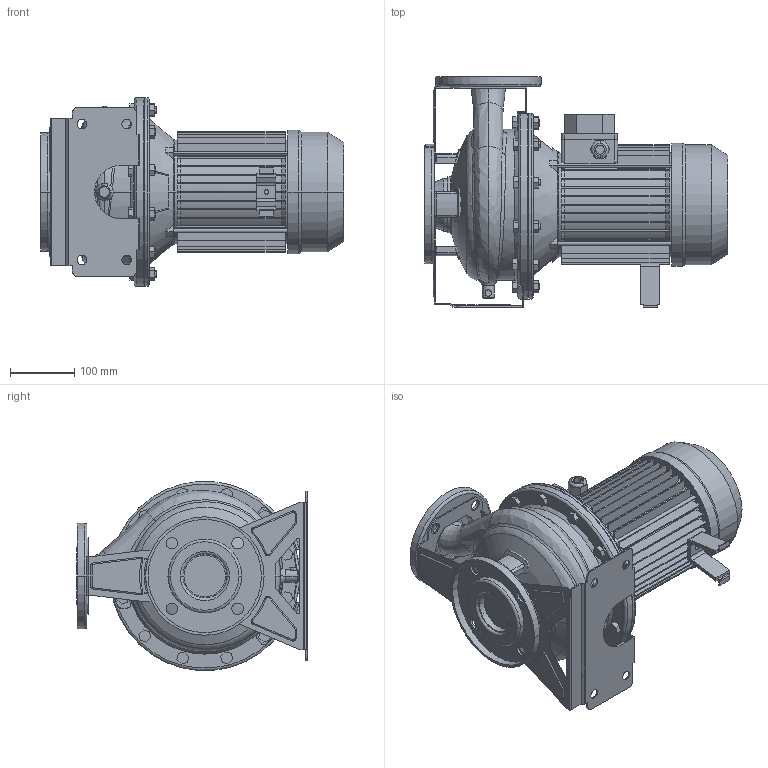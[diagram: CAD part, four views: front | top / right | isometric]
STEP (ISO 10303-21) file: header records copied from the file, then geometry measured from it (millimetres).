
FILE_DESCRIPTION((''),'2;1');
FILE_NAME('3M4_50-200_2_2_IE2_ASM','2012-03-14T',('Rosa'),('"Ebara Pumps Europe +39.444.706811"'),'PRO/ENGINEER BY PARAMETRIC TECHNOLOGY CORPORATION, 2009360','PRO/ENGINEER BY PARAMETRIC TECHNOLOGY CORPORATION, 2009360','');
FILE_SCHEMA(('AUTOMOTIVE_DESIGN { 1 0 10303 214 1 1 1 1 }'));
Length unit declared in the file: millimetre
Products named in the file (11): CORPO_50-200; ASP_50-200; FLANGIA_DIN_65; MAND_50-200; FLANGIA_DIN_50; BASE_3M_50-200; CORPO_SALDATO_50-200_ASM; SUPPORTO_3M_230_100; MEC_100X130_IE2; SOSTEGNO_72007; 3M4_50-200_2_2_IE2_ASM
Assembly tree (10 placements, depth 3):
  3M4_50-200_2_2_IE2_ASM
    CORPO_SALDATO_50-200_ASM
      CORPO_50-200
      ASP_50-200
      FLANGIA_DIN_65
      MAND_50-200
      FLANGIA_DIN_50
      BASE_3M_50-200
    SUPPORTO_3M_230_100
    MEC_100X130_IE2
    SOSTEGNO_72007
Bounding box: 474 x 360 x 295.13 mm (x, y, z)
Volume: 11021538.8 mm3; surface area: 1305209.2 mm2
Topology: 12 solids, 12 shells, 1095 faces, 2778 edges, 1774 vertices
Faces by surface type: plane 595, cylinder 306, cone 98, torus 60, bspline 30, sphere 6
Entity records: 47252 total; most frequent: CARTESIAN_POINT 9284, DIRECTION 5685, ORIENTED_EDGE 5556, PRESENTATION_STYLE_ASSIGNMENT 2790, STYLED_ITEM 2790, CURVE_STYLE 2778, EDGE_CURVE 2778, AXIS2_PLACEMENT_3D 2050
